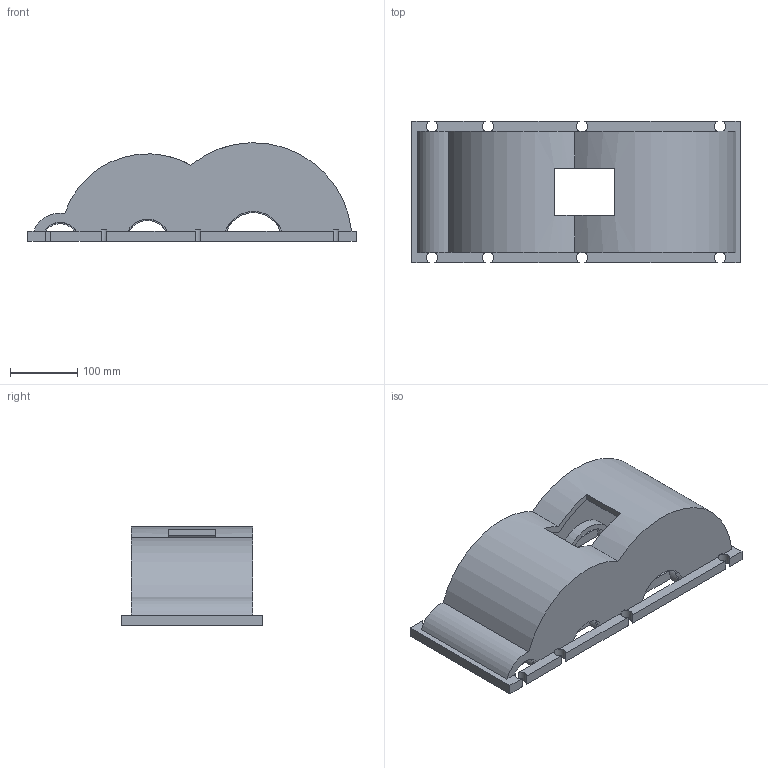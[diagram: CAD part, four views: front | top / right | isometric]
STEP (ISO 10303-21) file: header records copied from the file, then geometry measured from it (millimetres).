
FILE_DESCRIPTION(('Open CASCADE Model'),'2;1');
FILE_NAME('Open CASCADE Shape Model','2026-09-15T22:57:40',('Author'),( 'Open CASCADE'),'Open CASCADE STEP processor 7.9','build123d', 'Unknown');
FILE_SCHEMA(('AUTOMOTIVE_DESIGN { 1 0 10303 214 1 1 1 1 }'));
Length unit declared in the file: millimetre
Products named in the file (1): COMPOUND
Bounding box: 488 x 210 x 146.45 mm (x, y, z)
Volume: 2954205.3 mm3; surface area: 572736.6 mm2
Topology: 1 solids, 1 shells, 100 faces, 330 edges, 216 vertices
Faces by surface type: plane 66, cylinder 34
Entity records: 7742 total; most frequent: CARTESIAN_POINT 1613, DIRECTION 1040, ORIENTED_EDGE 660, PCURVE 660, DEFINITIONAL_REPRESENTATION 660, LINE 504, VECTOR 504, EDGE_CURVE 330
